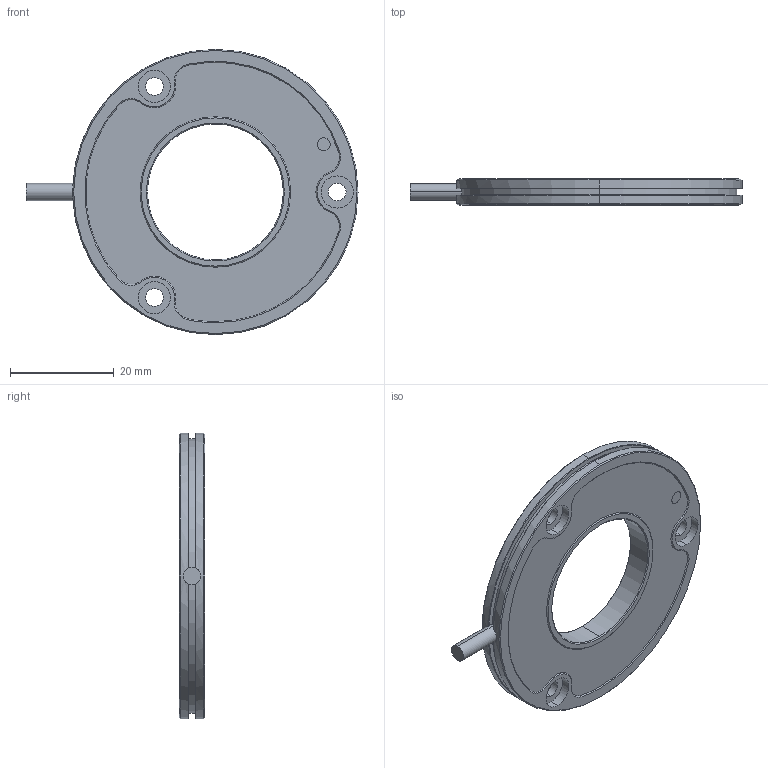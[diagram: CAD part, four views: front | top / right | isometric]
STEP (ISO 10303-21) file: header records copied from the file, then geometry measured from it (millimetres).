
FILE_DESCRIPTION (( 'STEP AP214' ), '1' );
FILE_NAME ('GRS-055-K0x-ST_rev01.STEP', '2023-11-08T08:36:05', ( '' ), ( '' ), 'SwSTEP 2.0', 'SolidWorks 2021', '' );
FILE_SCHEMA (( 'AUTOMOTIVE_DESIGN' ));
Length unit declared in the file: millimetre
Products named in the file (1): GRS-055-K0x-ST_rev01
Bounding box: 64 x 5 x 55 mm (x, y, z)
Volume: 8458.3 mm3; surface area: 9397.2 mm2
Topology: 4 solids, 4 shells, 144 faces, 345 edges, 220 vertices
Faces by surface type: cylinder 84, cone 31, plane 29
Entity records: 5954 total; most frequent: DIRECTION 831, CARTESIAN_POINT 756, ORIENTED_EDGE 690, AXIS2_PLACEMENT_3D 347, EDGE_CURVE 345, VERTEX_POINT 220, CIRCLE 202, EDGE_LOOP 167
